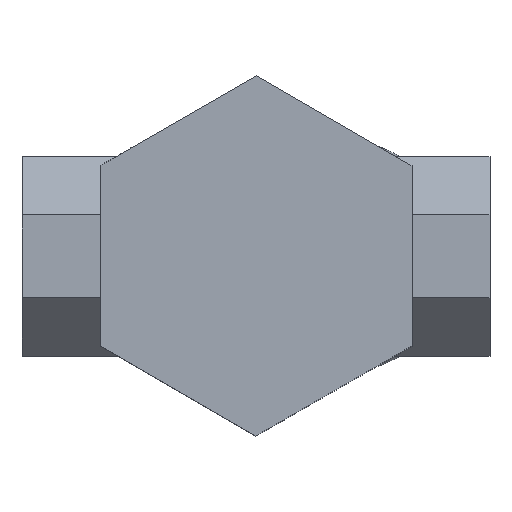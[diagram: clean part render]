
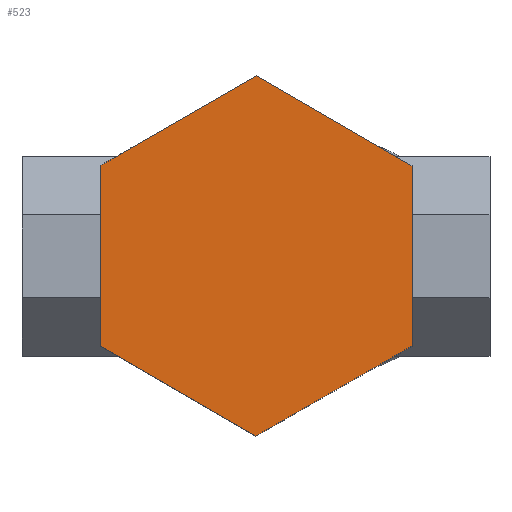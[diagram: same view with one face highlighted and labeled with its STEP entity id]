
A CAD part, top view. The second image highlights one B-rep face of the part: STEP entity #523.
In plain terms, the highlighted planar face has unit normal (0, 0, 1).
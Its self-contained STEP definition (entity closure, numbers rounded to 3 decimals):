
#47=FACE_OUTER_BOUND('',#75,.T.);
#75=EDGE_LOOP('',(#458,#459,#460,#461,#462,#463));
#111=LINE('',#1154,#162);
#115=LINE('',#1162,#166);
#118=LINE('',#1168,#169);
#121=LINE('',#1174,#172);
#124=LINE('',#1180,#175);
#127=LINE('',#1185,#178);
#162=VECTOR('',#644,10.);
#166=VECTOR('',#650,10.);
#169=VECTOR('',#655,10.);
#172=VECTOR('',#660,10.);
#175=VECTOR('',#665,10.);
#178=VECTOR('',#670,10.);
#237=VERTEX_POINT('',#1152);
#238=VERTEX_POINT('',#1153);
#241=VERTEX_POINT('',#1161);
#243=VERTEX_POINT('',#1167);
#245=VERTEX_POINT('',#1173);
#247=VERTEX_POINT('',#1179);
#305=EDGE_CURVE('',#237,#238,#111,.T.);
#309=EDGE_CURVE('',#238,#241,#115,.T.);
#312=EDGE_CURVE('',#241,#243,#118,.T.);
#315=EDGE_CURVE('',#243,#245,#121,.T.);
#318=EDGE_CURVE('',#245,#247,#124,.T.);
#321=EDGE_CURVE('',#247,#237,#127,.T.);
#458=ORIENTED_EDGE('',*,*,#321,.T.);
#459=ORIENTED_EDGE('',*,*,#305,.T.);
#460=ORIENTED_EDGE('',*,*,#309,.T.);
#461=ORIENTED_EDGE('',*,*,#312,.T.);
#462=ORIENTED_EDGE('',*,*,#315,.T.);
#463=ORIENTED_EDGE('',*,*,#318,.T.);
#495=PLANE('',#565);
#523=ADVANCED_FACE('',(#47),#495,.T.);
#565=AXIS2_PLACEMENT_3D('',#1187,#672,#673);
#644=DIRECTION('',(0.866,-0.5,0.));
#650=DIRECTION('',(0.866,0.5,0.));
#655=DIRECTION('',(0.,1.,0.));
#660=DIRECTION('',(-0.866,0.5,0.));
#665=DIRECTION('',(-0.866,-0.5,0.));
#670=DIRECTION('',(0.,-1.,0.));
#672=DIRECTION('center_axis',(0.,0.,1.));
#673=DIRECTION('ref_axis',(1.,0.,0.));
#1152=CARTESIAN_POINT('',(-25.,-14.434,48.));
#1153=CARTESIAN_POINT('',(0.,-28.868,48.));
#1154=CARTESIAN_POINT('',(-25.,-14.434,48.));
#1161=CARTESIAN_POINT('',(25.,-14.434,48.));
#1162=CARTESIAN_POINT('',(0.,-28.868,48.));
#1167=CARTESIAN_POINT('',(25.,14.434,48.));
#1168=CARTESIAN_POINT('',(25.,-14.434,48.));
#1173=CARTESIAN_POINT('',(0.,28.868,48.));
#1174=CARTESIAN_POINT('',(25.,14.434,48.));
#1179=CARTESIAN_POINT('',(-25.,14.434,48.));
#1180=CARTESIAN_POINT('',(0.,28.868,48.));
#1185=CARTESIAN_POINT('',(-25.,14.434,48.));
#1187=CARTESIAN_POINT('Origin',(0.,0.,48.));
